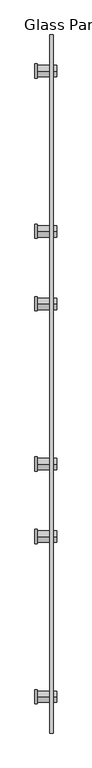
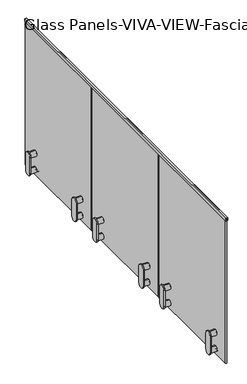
"""IFC4 building model written with IfcOpenShell, lengths in millimetres: railing geometry, Glass Panels-VIVA-VIEW-Fascia-Plate-Straight."""

from ifc_helpers import new_model, si_unit, point, frame, frame_2d, origin, place, context, project, spatial, polyline, circle_curve, trimmed, segment, composite_curve, outline, extrude, source, transform, mapped, element, save
from ifc_brep_helpers import plane_surface, cylinder_surface, advanced_brep


def glass_panels_viva_view_fascia_plate_straight_d094a03c(model_context):
    return source(origin(), model_context, "Body", "SolidModel", [
        extrude(outline(polyline([(1092.2, 20243.6596444), (1066.8, 20243.6596444), (1066.8, 20245.2471444), (1090.6125, 20245.2471444), (1090.6125, 20257.9471444), (1066.8, 20257.9471444), (1066.8, 20259.5346444), (1092.2, 20259.5346444), (1092.2, 20243.6596444)])), frame((0.0, -15505.1911701, 0.0), z_axis=(0.0, 1.0, 0.0), x_axis=(0.0, 0.0, 1.0)), (0.0, 0.0, 1.0), 3098.8),
        advanced_brep(
        [(20275.4093505, -13278.0747902, -254.0), (20275.4093505, -13278.0747902, -203.2), (20275.4093505, -13278.0747902, -228.6), (20257.9468505, -13278.0747902, -254.0), (20257.9468505, -13278.0747902, -203.2), (20257.9468505, -13278.0747902, -234.315), (20257.9468505, -13278.0747902, -222.885), (20245.2468505, -13278.0747902, -234.315), (20245.2468505, -13278.0747902, -222.885), (20245.2468505, -13278.0747902, -254.0), (20245.2468505, -13278.0747902, -203.2), (20188.0969975, -13278.0747902, -254.0), (20188.0969975, -13278.0747902, -203.2), (20188.0969975, -13278.0747902, -228.6)],
        [
            (0, 1, circle_curve(frame((20275.4093505, -13278.0747902, -228.6), z_axis=(1.0, 0.0, 0.0), x_axis=(0.0, 0.0, 1.0)), 25.4)),
            (1, 2),
            (2, 0),
            (1, 0, circle_curve(frame((20275.4093505, -13278.0747902, -228.6), z_axis=(1.0, 0.0, 0.0), x_axis=(0.0, 0.0, 1.0)), 25.4)),
            (3, 4, circle_curve(frame((20257.9468505, -13278.0747902, -228.6), z_axis=(1.0, 0.0, 0.0), x_axis=(0.0, 0.0, 1.0)), 25.4)),
            (4, 1),
            (0, 3),
            (4, 3, circle_curve(frame((20257.9468505, -13278.0747902, -228.6), z_axis=(1.0, 0.0, 0.0), x_axis=(0.0, 0.0, 1.0)), 25.4)),
            (5, 6, circle_curve(frame((20257.9468505, -13278.0747902, -228.6), z_axis=(1.0, 0.0, 0.0), x_axis=(0.0, 0.0, 1.0)), 5.715)),
            (6, 4),
            (3, 5),
            (6, 5, circle_curve(frame((20257.9468505, -13278.0747902, -228.6), z_axis=(1.0, 0.0, 0.0), x_axis=(0.0, 0.0, 1.0)), 5.715)),
            (7, 8, circle_curve(frame((20245.2468505, -13278.0747902, -228.6), z_axis=(1.0, 0.0, 0.0), x_axis=(0.0, 0.0, 1.0)), 5.715)),
            (8, 6),
            (5, 7),
            (8, 7, circle_curve(frame((20245.2468505, -13278.0747902, -228.6), z_axis=(1.0, 0.0, 0.0), x_axis=(0.0, 0.0, 1.0)), 5.715)),
            (9, 10, circle_curve(frame((20245.2468505, -13278.0747902, -228.6), z_axis=(1.0, 0.0, 0.0), x_axis=(0.0, 0.0, 1.0)), 25.4)),
            (10, 8),
            (7, 9),
            (10, 9, circle_curve(frame((20245.2468505, -13278.0747902, -228.6), z_axis=(1.0, 0.0, 0.0), x_axis=(0.0, 0.0, 1.0)), 25.4)),
            (11, 12, circle_curve(frame((20188.0969975, -13278.0747902, -228.6), z_axis=(1.0, 0.0, 0.0), x_axis=(0.0, 0.0, 1.0)), 25.4)),
            (12, 10),
            (9, 11),
            (12, 11, circle_curve(frame((20188.0969975, -13278.0747902, -228.6), z_axis=(1.0, 0.0, 0.0), x_axis=(0.0, 0.0, 1.0)), 25.4)),
            (13, 12),
            (11, 13),
        ],
        [
            plane_surface(frame((20275.4093505, -13278.0747902, -228.6), z_axis=(1.0, 0.0, 0.0), x_axis=(0.0, 0.0, 1.0))),
            cylinder_surface(frame((20343.6719975, -13278.0747902, -228.6), z_axis=(-1.0, 0.0, 0.0), x_axis=(0.0, 0.0, 1.0)), 25.4),
            plane_surface(frame((20257.9468505, -13278.0747902, -228.6), z_axis=(-1.0, 0.0, 0.0), x_axis=(0.0, 0.0, 1.0))),
            cylinder_surface(frame((20343.6719975, -13278.0747902, -228.6), z_axis=(-1.0, 0.0, 0.0), x_axis=(0.0, 0.0, 1.0)), 5.715),
            plane_surface(frame((20245.2468505, -13278.0747902, -228.6), z_axis=(1.0, 0.0, 0.0), x_axis=(0.0, 0.0, 1.0))),
            plane_surface(frame((20188.0969975, -13278.0747902, -228.6), z_axis=(-1.0, 0.0, 0.0), x_axis=(0.0, 0.0, 1.0))),
        ],
        [
            (0, [[1, 2, 3]]),
            (0, [[4, -3, -2]]),
            (1, [[5, 6, -1, 7]]),
            (1, [[8, -7, -4, -6]]),
            (2, [[9, 10, -5, 11]]),
            (2, [[12, -11, -8, -10]]),
            (3, [[13, 14, -9, 15]]),
            (3, [[16, -15, -12, -14]]),
            (4, [[17, 18, -13, 19]]),
            (4, [[20, -19, -16, -18]]),
            (1, [[21, 22, -17, 23]]),
            (1, [[24, -23, -20, -22]]),
            (5, [[25, -21, 26]]),
            (5, [[-26, -24, -25]]),
        ],
    ),
        advanced_brep(
        [(20257.9468505, -13278.0747902, -81.915), (20257.9468505, -13278.0747902, -70.485), (20257.9468505, -13278.0747902, -50.8), (20257.9468505, -13278.0747902, -101.6), (20245.2468505, -13278.0747902, -81.915), (20245.2468505, -13278.0747902, -70.485), (20245.2468505, -13278.0747902, -101.6), (20245.2468505, -13278.0747902, -50.8), (20188.0969975, -13278.0747902, -101.6), (20188.0969975, -13278.0747902, -50.8), (20188.0969975, -13278.0747902, -76.2), (20275.4093505, -13278.0747902, -101.6), (20275.4093505, -13278.0747902, -50.8), (20275.4093505, -13278.0747902, -76.2)],
        [
            (0, 1, circle_curve(frame((20257.9468505, -13278.0747902, -76.2), z_axis=(1.0, 0.0, 0.0), x_axis=(0.0, 0.0, 1.0)), 5.715)),
            (1, 2),
            (2, 3, circle_curve(frame((20257.9468505, -13278.0747902, -76.2), z_axis=(-1.0, 0.0, 0.0), x_axis=(0.0, 0.0, 1.0)), 25.4)),
            (3, 0),
            (1, 0, circle_curve(frame((20257.9468505, -13278.0747902, -76.2), z_axis=(1.0, 0.0, 0.0), x_axis=(0.0, 0.0, 1.0)), 5.715)),
            (3, 2, circle_curve(frame((20257.9468505, -13278.0747902, -76.2), z_axis=(-1.0, 0.0, 0.0), x_axis=(0.0, 0.0, 1.0)), 25.4)),
            (4, 5, circle_curve(frame((20245.2468505, -13278.0747902, -76.2), z_axis=(1.0, 0.0, 0.0), x_axis=(0.0, 0.0, 1.0)), 5.715)),
            (5, 1),
            (0, 4),
            (5, 4, circle_curve(frame((20245.2468505, -13278.0747902, -76.2), z_axis=(1.0, 0.0, 0.0), x_axis=(0.0, 0.0, 1.0)), 5.715)),
            (6, 7, circle_curve(frame((20245.2468505, -13278.0747902, -76.2), z_axis=(1.0, 0.0, 0.0), x_axis=(0.0, 0.0, 1.0)), 25.4)),
            (7, 5),
            (4, 6),
            (7, 6, circle_curve(frame((20245.2468505, -13278.0747902, -76.2), z_axis=(1.0, 0.0, 0.0), x_axis=(0.0, 0.0, 1.0)), 25.4)),
            (8, 9, circle_curve(frame((20188.0969975, -13278.0747902, -76.2), z_axis=(1.0, 0.0, 0.0), x_axis=(0.0, 0.0, 1.0)), 25.4)),
            (9, 7),
            (6, 8),
            (9, 8, circle_curve(frame((20188.0969975, -13278.0747902, -76.2), z_axis=(1.0, 0.0, 0.0), x_axis=(0.0, 0.0, 1.0)), 25.4)),
            (10, 9),
            (8, 10),
            (11, 12, circle_curve(frame((20275.4093505, -13278.0747902, -76.2), z_axis=(1.0, 0.0, 0.0), x_axis=(0.0, 0.0, 1.0)), 25.4)),
            (12, 13),
            (13, 11),
            (12, 11, circle_curve(frame((20275.4093505, -13278.0747902, -76.2), z_axis=(1.0, 0.0, 0.0), x_axis=(0.0, 0.0, 1.0)), 25.4)),
            (2, 12),
            (11, 3),
        ],
        [
            plane_surface(frame((20257.9468505, -13278.0747902, -76.2), z_axis=(-1.0, 0.0, 0.0), x_axis=(0.0, 0.0, 1.0))),
            cylinder_surface(frame((20343.6719975, -13278.0747902, -76.2), z_axis=(-1.0, 0.0, 0.0), x_axis=(0.0, 0.0, 1.0)), 5.715),
            plane_surface(frame((20245.2468505, -13278.0747902, -76.2), z_axis=(1.0, 0.0, 0.0), x_axis=(0.0, 0.0, 1.0))),
            cylinder_surface(frame((20343.6719975, -13278.0747902, -76.2), z_axis=(-1.0, 0.0, 0.0), x_axis=(0.0, 0.0, 1.0)), 25.4),
            plane_surface(frame((20188.0969975, -13278.0747902, -76.2), z_axis=(-1.0, 0.0, 0.0), x_axis=(0.0, 0.0, 1.0))),
            plane_surface(frame((20275.4093505, -13278.0747902, -76.2), z_axis=(1.0, 0.0, 0.0), x_axis=(0.0, 0.0, 1.0))),
        ],
        [
            (0, [[1, 2, 3, 4]]),
            (0, [[5, -4, 6, -2]]),
            (1, [[7, 8, -1, 9]]),
            (1, [[10, -9, -5, -8]]),
            (2, [[11, 12, -7, 13]]),
            (2, [[14, -13, -10, -12]]),
            (3, [[15, 16, -11, 17]]),
            (3, [[18, -17, -14, -16]]),
            (4, [[19, -15, 20]]),
            (4, [[-20, -18, -19]]),
            (5, [[21, 22, 23]]),
            (5, [[24, -23, -22]]),
            (3, [[-3, 25, -21, 26]]),
            (3, [[-6, -26, -24, -25]]),
        ],
    ),
        extrude(outline(composite_curve([segment(trimmed(circle_curve(frame_2d((-13278.0747902, -76.2)), 31.75), [point((-13309.8247902, -76.2))], [point((-13246.3247902, -76.2))], False, "CARTESIAN"), True, "CONTINUOUS"), segment(polyline([(-13246.3247902, -76.2), (-13246.3247902, -228.6)]), True, "CONTINUOUS"), segment(trimmed(circle_curve(frame_2d((-13278.0747902, -228.6)), 31.75), [point((-13246.3247902, -228.6))], [point((-13309.8247902, -228.6))], False, "CARTESIAN"), True, "CONTINUOUS"), segment(polyline([(-13309.8247902, -228.6), (-13309.8247902, -76.2)]), True, "CONTINUOUS")], self_intersect=False)), frame((20178.5719975, 0.0, 0.0), z_axis=(1.0, 0.0, 0.0), x_axis=(0.0, 1.0, 0.0)), (0.0, 0.0, 1.0), 9.525),
        advanced_brep(
        [(20275.4093505, -12566.8747902, -254.0), (20275.4093505, -12566.8747902, -203.2), (20275.4093505, -12566.8747902, -228.6), (20257.9468505, -12566.8747902, -254.0), (20257.9468505, -12566.8747902, -203.2), (20257.9468505, -12566.8747902, -234.315), (20257.9468505, -12566.8747902, -222.885), (20245.2468505, -12566.8747902, -234.315), (20245.2468505, -12566.8747902, -222.885), (20245.2468505, -12566.8747902, -254.0), (20245.2468505, -12566.8747902, -203.2), (20188.0969975, -12566.8747902, -254.0), (20188.0969975, -12566.8747902, -203.2), (20188.0969975, -12566.8747902, -228.6)],
        [
            (0, 1, circle_curve(frame((20275.4093505, -12566.8747902, -228.6), z_axis=(1.0, 0.0, 0.0), x_axis=(0.0, 0.0, 1.0)), 25.4)),
            (1, 2),
            (2, 0),
            (1, 0, circle_curve(frame((20275.4093505, -12566.8747902, -228.6), z_axis=(1.0, 0.0, 0.0), x_axis=(0.0, 0.0, 1.0)), 25.4)),
            (3, 4, circle_curve(frame((20257.9468505, -12566.8747902, -228.6), z_axis=(1.0, 0.0, 0.0), x_axis=(0.0, 0.0, 1.0)), 25.4)),
            (4, 1),
            (0, 3),
            (4, 3, circle_curve(frame((20257.9468505, -12566.8747902, -228.6), z_axis=(1.0, 0.0, 0.0), x_axis=(0.0, 0.0, 1.0)), 25.4)),
            (5, 6, circle_curve(frame((20257.9468505, -12566.8747902, -228.6), z_axis=(1.0, 0.0, 0.0), x_axis=(0.0, 0.0, 1.0)), 5.715)),
            (6, 4),
            (3, 5),
            (6, 5, circle_curve(frame((20257.9468505, -12566.8747902, -228.6), z_axis=(1.0, 0.0, 0.0), x_axis=(0.0, 0.0, 1.0)), 5.715)),
            (7, 8, circle_curve(frame((20245.2468505, -12566.8747902, -228.6), z_axis=(1.0, 0.0, 0.0), x_axis=(0.0, 0.0, 1.0)), 5.715)),
            (8, 6),
            (5, 7),
            (8, 7, circle_curve(frame((20245.2468505, -12566.8747902, -228.6), z_axis=(1.0, 0.0, 0.0), x_axis=(0.0, 0.0, 1.0)), 5.715)),
            (9, 10, circle_curve(frame((20245.2468505, -12566.8747902, -228.6), z_axis=(1.0, 0.0, 0.0), x_axis=(0.0, 0.0, 1.0)), 25.4)),
            (10, 8),
            (7, 9),
            (10, 9, circle_curve(frame((20245.2468505, -12566.8747902, -228.6), z_axis=(1.0, 0.0, 0.0), x_axis=(0.0, 0.0, 1.0)), 25.4)),
            (11, 12, circle_curve(frame((20188.0969975, -12566.8747902, -228.6), z_axis=(1.0, 0.0, 0.0), x_axis=(0.0, 0.0, 1.0)), 25.4)),
            (12, 10),
            (9, 11),
            (12, 11, circle_curve(frame((20188.0969975, -12566.8747902, -228.6), z_axis=(1.0, 0.0, 0.0), x_axis=(0.0, 0.0, 1.0)), 25.4)),
            (13, 12),
            (11, 13),
        ],
        [
            plane_surface(frame((20275.4093505, -12566.8747902, -228.6), z_axis=(1.0, 0.0, 0.0), x_axis=(0.0, 0.0, 1.0))),
            cylinder_surface(frame((20343.6719975, -12566.8747902, -228.6), z_axis=(-1.0, 0.0, 0.0), x_axis=(0.0, 0.0, 1.0)), 25.4),
            plane_surface(frame((20257.9468505, -12566.8747902, -228.6), z_axis=(-1.0, 0.0, 0.0), x_axis=(0.0, 0.0, 1.0))),
            cylinder_surface(frame((20343.6719975, -12566.8747902, -228.6), z_axis=(-1.0, 0.0, 0.0), x_axis=(0.0, 0.0, 1.0)), 5.715),
            plane_surface(frame((20245.2468505, -12566.8747902, -228.6), z_axis=(1.0, 0.0, 0.0), x_axis=(0.0, 0.0, 1.0))),
            plane_surface(frame((20188.0969975, -12566.8747902, -228.6), z_axis=(-1.0, 0.0, 0.0), x_axis=(0.0, 0.0, 1.0))),
        ],
        [
            (0, [[1, 2, 3]]),
            (0, [[4, -3, -2]]),
            (1, [[5, 6, -1, 7]]),
            (1, [[8, -7, -4, -6]]),
            (2, [[9, 10, -5, 11]]),
            (2, [[12, -11, -8, -10]]),
            (3, [[13, 14, -9, 15]]),
            (3, [[16, -15, -12, -14]]),
            (4, [[17, 18, -13, 19]]),
            (4, [[20, -19, -16, -18]]),
            (1, [[21, 22, -17, 23]]),
            (1, [[24, -23, -20, -22]]),
            (5, [[25, -21, 26]]),
            (5, [[-26, -24, -25]]),
        ],
    ),
        advanced_brep(
        [(20257.9468505, -12566.8747902, -81.915), (20257.9468505, -12566.8747902, -70.485), (20257.9468505, -12566.8747902, -50.8), (20257.9468505, -12566.8747902, -101.6), (20245.2468505, -12566.8747902, -81.915), (20245.2468505, -12566.8747902, -70.485), (20245.2468505, -12566.8747902, -101.6), (20245.2468505, -12566.8747902, -50.8), (20188.0969975, -12566.8747902, -101.6), (20188.0969975, -12566.8747902, -50.8), (20188.0969975, -12566.8747902, -76.2), (20275.4093505, -12566.8747902, -101.6), (20275.4093505, -12566.8747902, -50.8), (20275.4093505, -12566.8747902, -76.2)],
        [
            (0, 1, circle_curve(frame((20257.9468505, -12566.8747902, -76.2), z_axis=(1.0, 0.0, 0.0), x_axis=(0.0, 0.0, 1.0)), 5.715)),
            (1, 2),
            (2, 3, circle_curve(frame((20257.9468505, -12566.8747902, -76.2), z_axis=(-1.0, 0.0, 0.0), x_axis=(0.0, 0.0, 1.0)), 25.4)),
            (3, 0),
            (1, 0, circle_curve(frame((20257.9468505, -12566.8747902, -76.2), z_axis=(1.0, 0.0, 0.0), x_axis=(0.0, 0.0, 1.0)), 5.715)),
            (3, 2, circle_curve(frame((20257.9468505, -12566.8747902, -76.2), z_axis=(-1.0, 0.0, 0.0), x_axis=(0.0, 0.0, 1.0)), 25.4)),
            (4, 5, circle_curve(frame((20245.2468505, -12566.8747902, -76.2), z_axis=(1.0, 0.0, 0.0), x_axis=(0.0, 0.0, 1.0)), 5.715)),
            (5, 1),
            (0, 4),
            (5, 4, circle_curve(frame((20245.2468505, -12566.8747902, -76.2), z_axis=(1.0, 0.0, 0.0), x_axis=(0.0, 0.0, 1.0)), 5.715)),
            (6, 7, circle_curve(frame((20245.2468505, -12566.8747902, -76.2), z_axis=(1.0, 0.0, 0.0), x_axis=(0.0, 0.0, 1.0)), 25.4)),
            (7, 5),
            (4, 6),
            (7, 6, circle_curve(frame((20245.2468505, -12566.8747902, -76.2), z_axis=(1.0, 0.0, 0.0), x_axis=(0.0, 0.0, 1.0)), 25.4)),
            (8, 9, circle_curve(frame((20188.0969975, -12566.8747902, -76.2), z_axis=(1.0, 0.0, 0.0), x_axis=(0.0, 0.0, 1.0)), 25.4)),
            (9, 7),
            (6, 8),
            (9, 8, circle_curve(frame((20188.0969975, -12566.8747902, -76.2), z_axis=(1.0, 0.0, 0.0), x_axis=(0.0, 0.0, 1.0)), 25.4)),
            (10, 9),
            (8, 10),
            (11, 12, circle_curve(frame((20275.4093505, -12566.8747902, -76.2), z_axis=(1.0, 0.0, 0.0), x_axis=(0.0, 0.0, 1.0)), 25.4)),
            (12, 13),
            (13, 11),
            (12, 11, circle_curve(frame((20275.4093505, -12566.8747902, -76.2), z_axis=(1.0, 0.0, 0.0), x_axis=(0.0, 0.0, 1.0)), 25.4)),
            (2, 12),
            (11, 3),
        ],
        [
            plane_surface(frame((20257.9468505, -12566.8747902, -76.2), z_axis=(-1.0, 0.0, 0.0), x_axis=(0.0, 0.0, 1.0))),
            cylinder_surface(frame((20343.6719975, -12566.8747902, -76.2), z_axis=(-1.0, 0.0, 0.0), x_axis=(0.0, 0.0, 1.0)), 5.715),
            plane_surface(frame((20245.2468505, -12566.8747902, -76.2), z_axis=(1.0, 0.0, 0.0), x_axis=(0.0, 0.0, 1.0))),
            cylinder_surface(frame((20343.6719975, -12566.8747902, -76.2), z_axis=(-1.0, 0.0, 0.0), x_axis=(0.0, 0.0, 1.0)), 25.4),
            plane_surface(frame((20188.0969975, -12566.8747902, -76.2), z_axis=(-1.0, 0.0, 0.0), x_axis=(0.0, 0.0, 1.0))),
            plane_surface(frame((20275.4093505, -12566.8747902, -76.2), z_axis=(1.0, 0.0, 0.0), x_axis=(0.0, 0.0, 1.0))),
        ],
        [
            (0, [[1, 2, 3, 4]]),
            (0, [[5, -4, 6, -2]]),
            (1, [[7, 8, -1, 9]]),
            (1, [[10, -9, -5, -8]]),
            (2, [[11, 12, -7, 13]]),
            (2, [[14, -13, -10, -12]]),
            (3, [[15, 16, -11, 17]]),
            (3, [[18, -17, -14, -16]]),
            (4, [[19, -15, 20]]),
            (4, [[-20, -18, -19]]),
            (5, [[21, 22, 23]]),
            (5, [[24, -23, -22]]),
            (3, [[-3, 25, -21, 26]]),
            (3, [[-6, -26, -24, -25]]),
        ],
    ),
        extrude(outline(composite_curve([segment(trimmed(circle_curve(frame_2d((-12566.8747902, -76.2)), 31.75), [point((-12598.6247902, -76.2))], [point((-12535.1247902, -76.2))], False, "CARTESIAN"), True, "CONTINUOUS"), segment(polyline([(-12535.1247902, -76.2), (-12535.1247902, -228.6)]), True, "CONTINUOUS"), segment(trimmed(circle_curve(frame_2d((-12566.8747902, -228.6)), 31.75), [point((-12535.1247902, -228.6))], [point((-12598.6247902, -228.6))], False, "CARTESIAN"), True, "CONTINUOUS"), segment(polyline([(-12598.6247902, -228.6), (-12598.6247902, -76.2)]), True, "CONTINUOUS")], self_intersect=False)), frame((20178.5719975, 0.0, 0.0), z_axis=(1.0, 0.0, 0.0), x_axis=(0.0, 1.0, 0.0)), (0.0, 0.0, 1.0), 9.525),
        extrude(outline(polyline([(20245.2471444, -13430.4747902), (20245.2471444, -12414.4747902), (20257.9471444, -12414.4747902), (20257.9471444, -13430.4747902), (20245.2471444, -13430.4747902)])), frame((0.0, 0.0, -279.4), z_axis=(0.0, 0.0, 1.0), x_axis=(1.0, 0.0, 0.0)), (0.0, 0.0, 1.0), 1370.0125),
        advanced_brep(
        [(20275.4093505, -14311.0081235, -254.0), (20275.4093505, -14311.0081235, -203.2), (20275.4093505, -14311.0081235, -228.6), (20257.9468505, -14311.0081235, -254.0), (20257.9468505, -14311.0081235, -203.2), (20257.9468505, -14311.0081235, -234.315), (20257.9468505, -14311.0081235, -222.885), (20245.2468505, -14311.0081235, -234.315), (20245.2468505, -14311.0081235, -222.885), (20245.2468505, -14311.0081235, -254.0), (20245.2468505, -14311.0081235, -203.2), (20188.0969975, -14311.0081235, -254.0), (20188.0969975, -14311.0081235, -203.2), (20188.0969975, -14311.0081235, -228.6)],
        [
            (0, 1, circle_curve(frame((20275.4093505, -14311.0081235, -228.6), z_axis=(1.0, 0.0, 0.0), x_axis=(0.0, 0.0, 1.0)), 25.4)),
            (1, 2),
            (2, 0),
            (1, 0, circle_curve(frame((20275.4093505, -14311.0081235, -228.6), z_axis=(1.0, 0.0, 0.0), x_axis=(0.0, 0.0, 1.0)), 25.4)),
            (3, 4, circle_curve(frame((20257.9468505, -14311.0081235, -228.6), z_axis=(1.0, 0.0, 0.0), x_axis=(0.0, 0.0, 1.0)), 25.4)),
            (4, 1),
            (0, 3),
            (4, 3, circle_curve(frame((20257.9468505, -14311.0081235, -228.6), z_axis=(1.0, 0.0, 0.0), x_axis=(0.0, 0.0, 1.0)), 25.4)),
            (5, 6, circle_curve(frame((20257.9468505, -14311.0081235, -228.6), z_axis=(1.0, 0.0, 0.0), x_axis=(0.0, 0.0, 1.0)), 5.715)),
            (6, 4),
            (3, 5),
            (6, 5, circle_curve(frame((20257.9468505, -14311.0081235, -228.6), z_axis=(1.0, 0.0, 0.0), x_axis=(0.0, 0.0, 1.0)), 5.715)),
            (7, 8, circle_curve(frame((20245.2468505, -14311.0081235, -228.6), z_axis=(1.0, 0.0, 0.0), x_axis=(0.0, 0.0, 1.0)), 5.715)),
            (8, 6),
            (5, 7),
            (8, 7, circle_curve(frame((20245.2468505, -14311.0081235, -228.6), z_axis=(1.0, 0.0, 0.0), x_axis=(0.0, 0.0, 1.0)), 5.715)),
            (9, 10, circle_curve(frame((20245.2468505, -14311.0081235, -228.6), z_axis=(1.0, 0.0, 0.0), x_axis=(0.0, 0.0, 1.0)), 25.4)),
            (10, 8),
            (7, 9),
            (10, 9, circle_curve(frame((20245.2468505, -14311.0081235, -228.6), z_axis=(1.0, 0.0, 0.0), x_axis=(0.0, 0.0, 1.0)), 25.4)),
            (11, 12, circle_curve(frame((20188.0969975, -14311.0081235, -228.6), z_axis=(1.0, 0.0, 0.0), x_axis=(0.0, 0.0, 1.0)), 25.4)),
            (12, 10),
            (9, 11),
            (12, 11, circle_curve(frame((20188.0969975, -14311.0081235, -228.6), z_axis=(1.0, 0.0, 0.0), x_axis=(0.0, 0.0, 1.0)), 25.4)),
            (13, 12),
            (11, 13),
        ],
        [
            plane_surface(frame((20275.4093505, -14311.0081235, -228.6), z_axis=(1.0, 0.0, 0.0), x_axis=(0.0, 0.0, 1.0))),
            cylinder_surface(frame((20343.6719975, -14311.0081235, -228.6), z_axis=(-1.0, 0.0, 0.0), x_axis=(0.0, 0.0, 1.0)), 25.4),
            plane_surface(frame((20257.9468505, -14311.0081235, -228.6), z_axis=(-1.0, 0.0, 0.0), x_axis=(0.0, 0.0, 1.0))),
            cylinder_surface(frame((20343.6719975, -14311.0081235, -228.6), z_axis=(-1.0, 0.0, 0.0), x_axis=(0.0, 0.0, 1.0)), 5.715),
            plane_surface(frame((20245.2468505, -14311.0081235, -228.6), z_axis=(1.0, 0.0, 0.0), x_axis=(0.0, 0.0, 1.0))),
            plane_surface(frame((20188.0969975, -14311.0081235, -228.6), z_axis=(-1.0, 0.0, 0.0), x_axis=(0.0, 0.0, 1.0))),
        ],
        [
            (0, [[1, 2, 3]]),
            (0, [[4, -3, -2]]),
            (1, [[5, 6, -1, 7]]),
            (1, [[8, -7, -4, -6]]),
            (2, [[9, 10, -5, 11]]),
            (2, [[12, -11, -8, -10]]),
            (3, [[13, 14, -9, 15]]),
            (3, [[16, -15, -12, -14]]),
            (4, [[17, 18, -13, 19]]),
            (4, [[20, -19, -16, -18]]),
            (1, [[21, 22, -17, 23]]),
            (1, [[24, -23, -20, -22]]),
            (5, [[25, -21, 26]]),
            (5, [[-26, -24, -25]]),
        ],
    ),
        advanced_brep(
        [(20257.9468505, -14311.0081235, -81.915), (20257.9468505, -14311.0081235, -70.485), (20257.9468505, -14311.0081235, -50.8), (20257.9468505, -14311.0081235, -101.6), (20245.2468505, -14311.0081235, -81.915), (20245.2468505, -14311.0081235, -70.485), (20245.2468505, -14311.0081235, -101.6), (20245.2468505, -14311.0081235, -50.8), (20188.0969975, -14311.0081235, -101.6), (20188.0969975, -14311.0081235, -50.8), (20188.0969975, -14311.0081235, -76.2), (20275.4093505, -14311.0081235, -101.6), (20275.4093505, -14311.0081235, -50.8), (20275.4093505, -14311.0081235, -76.2)],
        [
            (0, 1, circle_curve(frame((20257.9468505, -14311.0081235, -76.2), z_axis=(1.0, 0.0, 0.0), x_axis=(0.0, 0.0, 1.0)), 5.715)),
            (1, 2),
            (2, 3, circle_curve(frame((20257.9468505, -14311.0081235, -76.2), z_axis=(-1.0, 0.0, 0.0), x_axis=(0.0, 0.0, 1.0)), 25.4)),
            (3, 0),
            (1, 0, circle_curve(frame((20257.9468505, -14311.0081235, -76.2), z_axis=(1.0, 0.0, 0.0), x_axis=(0.0, 0.0, 1.0)), 5.715)),
            (3, 2, circle_curve(frame((20257.9468505, -14311.0081235, -76.2), z_axis=(-1.0, 0.0, 0.0), x_axis=(0.0, 0.0, 1.0)), 25.4)),
            (4, 5, circle_curve(frame((20245.2468505, -14311.0081235, -76.2), z_axis=(1.0, 0.0, 0.0), x_axis=(0.0, 0.0, 1.0)), 5.715)),
            (5, 1),
            (0, 4),
            (5, 4, circle_curve(frame((20245.2468505, -14311.0081235, -76.2), z_axis=(1.0, 0.0, 0.0), x_axis=(0.0, 0.0, 1.0)), 5.715)),
            (6, 7, circle_curve(frame((20245.2468505, -14311.0081235, -76.2), z_axis=(1.0, 0.0, 0.0), x_axis=(0.0, 0.0, 1.0)), 25.4)),
            (7, 5),
            (4, 6),
            (7, 6, circle_curve(frame((20245.2468505, -14311.0081235, -76.2), z_axis=(1.0, 0.0, 0.0), x_axis=(0.0, 0.0, 1.0)), 25.4)),
            (8, 9, circle_curve(frame((20188.0969975, -14311.0081235, -76.2), z_axis=(1.0, 0.0, 0.0), x_axis=(0.0, 0.0, 1.0)), 25.4)),
            (9, 7),
            (6, 8),
            (9, 8, circle_curve(frame((20188.0969975, -14311.0081235, -76.2), z_axis=(1.0, 0.0, 0.0), x_axis=(0.0, 0.0, 1.0)), 25.4)),
            (10, 9),
            (8, 10),
            (11, 12, circle_curve(frame((20275.4093505, -14311.0081235, -76.2), z_axis=(1.0, 0.0, 0.0), x_axis=(0.0, 0.0, 1.0)), 25.4)),
            (12, 13),
            (13, 11),
            (12, 11, circle_curve(frame((20275.4093505, -14311.0081235, -76.2), z_axis=(1.0, 0.0, 0.0), x_axis=(0.0, 0.0, 1.0)), 25.4)),
            (2, 12),
            (11, 3),
        ],
        [
            plane_surface(frame((20257.9468505, -14311.0081235, -76.2), z_axis=(-1.0, 0.0, 0.0), x_axis=(0.0, 0.0, 1.0))),
            cylinder_surface(frame((20343.6719975, -14311.0081235, -76.2), z_axis=(-1.0, 0.0, 0.0), x_axis=(0.0, 0.0, 1.0)), 5.715),
            plane_surface(frame((20245.2468505, -14311.0081235, -76.2), z_axis=(1.0, 0.0, 0.0), x_axis=(0.0, 0.0, 1.0))),
            cylinder_surface(frame((20343.6719975, -14311.0081235, -76.2), z_axis=(-1.0, 0.0, 0.0), x_axis=(0.0, 0.0, 1.0)), 25.4),
            plane_surface(frame((20188.0969975, -14311.0081235, -76.2), z_axis=(-1.0, 0.0, 0.0), x_axis=(0.0, 0.0, 1.0))),
            plane_surface(frame((20275.4093505, -14311.0081235, -76.2), z_axis=(1.0, 0.0, 0.0), x_axis=(0.0, 0.0, 1.0))),
        ],
        [
            (0, [[1, 2, 3, 4]]),
            (0, [[5, -4, 6, -2]]),
            (1, [[7, 8, -1, 9]]),
            (1, [[10, -9, -5, -8]]),
            (2, [[11, 12, -7, 13]]),
            (2, [[14, -13, -10, -12]]),
            (3, [[15, 16, -11, 17]]),
            (3, [[18, -17, -14, -16]]),
            (4, [[19, -15, 20]]),
            (4, [[-20, -18, -19]]),
            (5, [[21, 22, 23]]),
            (5, [[24, -23, -22]]),
            (3, [[-3, 25, -21, 26]]),
            (3, [[-6, -26, -24, -25]]),
        ],
    ),
        extrude(outline(composite_curve([segment(trimmed(circle_curve(frame_2d((-14311.0081235, -76.2)), 31.75), [point((-14342.7581235, -76.2))], [point((-14279.2581235, -76.2))], False, "CARTESIAN"), True, "CONTINUOUS"), segment(polyline([(-14279.2581235, -76.2), (-14279.2581235, -228.6)]), True, "CONTINUOUS"), segment(trimmed(circle_curve(frame_2d((-14311.0081235, -228.6)), 31.75), [point((-14279.2581235, -228.6))], [point((-14342.7581235, -228.6))], False, "CARTESIAN"), True, "CONTINUOUS"), segment(polyline([(-14342.7581235, -228.6), (-14342.7581235, -76.2)]), True, "CONTINUOUS")], self_intersect=False)), frame((20178.5719975, 0.0, 0.0), z_axis=(1.0, 0.0, 0.0), x_axis=(0.0, 1.0, 0.0)), (0.0, 0.0, 1.0), 9.525),
        advanced_brep(
        [(20275.4093505, -13599.8081235, -254.0), (20275.4093505, -13599.8081235, -203.2), (20275.4093505, -13599.8081235, -228.6), (20257.9468505, -13599.8081235, -254.0), (20257.9468505, -13599.8081235, -203.2), (20257.9468505, -13599.8081235, -234.315), (20257.9468505, -13599.8081235, -222.885), (20245.2468505, -13599.8081235, -234.315), (20245.2468505, -13599.8081235, -222.885), (20245.2468505, -13599.8081235, -254.0), (20245.2468505, -13599.8081235, -203.2), (20188.0969975, -13599.8081235, -254.0), (20188.0969975, -13599.8081235, -203.2), (20188.0969975, -13599.8081235, -228.6)],
        [
            (0, 1, circle_curve(frame((20275.4093505, -13599.8081235, -228.6), z_axis=(1.0, 0.0, 0.0), x_axis=(0.0, 0.0, 1.0)), 25.4)),
            (1, 2),
            (2, 0),
            (1, 0, circle_curve(frame((20275.4093505, -13599.8081235, -228.6), z_axis=(1.0, 0.0, 0.0), x_axis=(0.0, 0.0, 1.0)), 25.4)),
            (3, 4, circle_curve(frame((20257.9468505, -13599.8081235, -228.6), z_axis=(1.0, 0.0, 0.0), x_axis=(0.0, 0.0, 1.0)), 25.4)),
            (4, 1),
            (0, 3),
            (4, 3, circle_curve(frame((20257.9468505, -13599.8081235, -228.6), z_axis=(1.0, 0.0, 0.0), x_axis=(0.0, 0.0, 1.0)), 25.4)),
            (5, 6, circle_curve(frame((20257.9468505, -13599.8081235, -228.6), z_axis=(1.0, 0.0, 0.0), x_axis=(0.0, 0.0, 1.0)), 5.715)),
            (6, 4),
            (3, 5),
            (6, 5, circle_curve(frame((20257.9468505, -13599.8081235, -228.6), z_axis=(1.0, 0.0, 0.0), x_axis=(0.0, 0.0, 1.0)), 5.715)),
            (7, 8, circle_curve(frame((20245.2468505, -13599.8081235, -228.6), z_axis=(1.0, 0.0, 0.0), x_axis=(0.0, 0.0, 1.0)), 5.715)),
            (8, 6),
            (5, 7),
            (8, 7, circle_curve(frame((20245.2468505, -13599.8081235, -228.6), z_axis=(1.0, 0.0, 0.0), x_axis=(0.0, 0.0, 1.0)), 5.715)),
            (9, 10, circle_curve(frame((20245.2468505, -13599.8081235, -228.6), z_axis=(1.0, 0.0, 0.0), x_axis=(0.0, 0.0, 1.0)), 25.4)),
            (10, 8),
            (7, 9),
            (10, 9, circle_curve(frame((20245.2468505, -13599.8081235, -228.6), z_axis=(1.0, 0.0, 0.0), x_axis=(0.0, 0.0, 1.0)), 25.4)),
            (11, 12, circle_curve(frame((20188.0969975, -13599.8081235, -228.6), z_axis=(1.0, 0.0, 0.0), x_axis=(0.0, 0.0, 1.0)), 25.4)),
            (12, 10),
            (9, 11),
            (12, 11, circle_curve(frame((20188.0969975, -13599.8081235, -228.6), z_axis=(1.0, 0.0, 0.0), x_axis=(0.0, 0.0, 1.0)), 25.4)),
            (13, 12),
            (11, 13),
        ],
        [
            plane_surface(frame((20275.4093505, -13599.8081235, -228.6), z_axis=(1.0, 0.0, 0.0), x_axis=(0.0, 0.0, 1.0))),
            cylinder_surface(frame((20343.6719975, -13599.8081235, -228.6), z_axis=(-1.0, 0.0, 0.0), x_axis=(0.0, 0.0, 1.0)), 25.4),
            plane_surface(frame((20257.9468505, -13599.8081235, -228.6), z_axis=(-1.0, 0.0, 0.0), x_axis=(0.0, 0.0, 1.0))),
            cylinder_surface(frame((20343.6719975, -13599.8081235, -228.6), z_axis=(-1.0, 0.0, 0.0), x_axis=(0.0, 0.0, 1.0)), 5.715),
            plane_surface(frame((20245.2468505, -13599.8081235, -228.6), z_axis=(1.0, 0.0, 0.0), x_axis=(0.0, 0.0, 1.0))),
            plane_surface(frame((20188.0969975, -13599.8081235, -228.6), z_axis=(-1.0, 0.0, 0.0), x_axis=(0.0, 0.0, 1.0))),
        ],
        [
            (0, [[1, 2, 3]]),
            (0, [[4, -3, -2]]),
            (1, [[5, 6, -1, 7]]),
            (1, [[8, -7, -4, -6]]),
            (2, [[9, 10, -5, 11]]),
            (2, [[12, -11, -8, -10]]),
            (3, [[13, 14, -9, 15]]),
            (3, [[16, -15, -12, -14]]),
            (4, [[17, 18, -13, 19]]),
            (4, [[20, -19, -16, -18]]),
            (1, [[21, 22, -17, 23]]),
            (1, [[24, -23, -20, -22]]),
            (5, [[25, -21, 26]]),
            (5, [[-26, -24, -25]]),
        ],
    ),
        advanced_brep(
        [(20257.9468505, -13599.8081235, -81.915), (20257.9468505, -13599.8081235, -70.485), (20257.9468505, -13599.8081235, -50.8), (20257.9468505, -13599.8081235, -101.6), (20245.2468505, -13599.8081235, -81.915), (20245.2468505, -13599.8081235, -70.485), (20245.2468505, -13599.8081235, -101.6), (20245.2468505, -13599.8081235, -50.8), (20188.0969975, -13599.8081235, -101.6), (20188.0969975, -13599.8081235, -50.8), (20188.0969975, -13599.8081235, -76.2), (20275.4093505, -13599.8081235, -101.6), (20275.4093505, -13599.8081235, -50.8), (20275.4093505, -13599.8081235, -76.2)],
        [
            (0, 1, circle_curve(frame((20257.9468505, -13599.8081235, -76.2), z_axis=(1.0, 0.0, 0.0), x_axis=(0.0, 0.0, 1.0)), 5.715)),
            (1, 2),
            (2, 3, circle_curve(frame((20257.9468505, -13599.8081235, -76.2), z_axis=(-1.0, 0.0, 0.0), x_axis=(0.0, 0.0, 1.0)), 25.4)),
            (3, 0),
            (1, 0, circle_curve(frame((20257.9468505, -13599.8081235, -76.2), z_axis=(1.0, 0.0, 0.0), x_axis=(0.0, 0.0, 1.0)), 5.715)),
            (3, 2, circle_curve(frame((20257.9468505, -13599.8081235, -76.2), z_axis=(-1.0, 0.0, 0.0), x_axis=(0.0, 0.0, 1.0)), 25.4)),
            (4, 5, circle_curve(frame((20245.2468505, -13599.8081235, -76.2), z_axis=(1.0, 0.0, 0.0), x_axis=(0.0, 0.0, 1.0)), 5.715)),
            (5, 1),
            (0, 4),
            (5, 4, circle_curve(frame((20245.2468505, -13599.8081235, -76.2), z_axis=(1.0, 0.0, 0.0), x_axis=(0.0, 0.0, 1.0)), 5.715)),
            (6, 7, circle_curve(frame((20245.2468505, -13599.8081235, -76.2), z_axis=(1.0, 0.0, 0.0), x_axis=(0.0, 0.0, 1.0)), 25.4)),
            (7, 5),
            (4, 6),
            (7, 6, circle_curve(frame((20245.2468505, -13599.8081235, -76.2), z_axis=(1.0, 0.0, 0.0), x_axis=(0.0, 0.0, 1.0)), 25.4)),
            (8, 9, circle_curve(frame((20188.0969975, -13599.8081235, -76.2), z_axis=(1.0, 0.0, 0.0), x_axis=(0.0, 0.0, 1.0)), 25.4)),
            (9, 7),
            (6, 8),
            (9, 8, circle_curve(frame((20188.0969975, -13599.8081235, -76.2), z_axis=(1.0, 0.0, 0.0), x_axis=(0.0, 0.0, 1.0)), 25.4)),
            (10, 9),
            (8, 10),
            (11, 12, circle_curve(frame((20275.4093505, -13599.8081235, -76.2), z_axis=(1.0, 0.0, 0.0), x_axis=(0.0, 0.0, 1.0)), 25.4)),
            (12, 13),
            (13, 11),
            (12, 11, circle_curve(frame((20275.4093505, -13599.8081235, -76.2), z_axis=(1.0, 0.0, 0.0), x_axis=(0.0, 0.0, 1.0)), 25.4)),
            (2, 12),
            (11, 3),
        ],
        [
            plane_surface(frame((20257.9468505, -13599.8081235, -76.2), z_axis=(-1.0, 0.0, 0.0), x_axis=(0.0, 0.0, 1.0))),
            cylinder_surface(frame((20343.6719975, -13599.8081235, -76.2), z_axis=(-1.0, 0.0, 0.0), x_axis=(0.0, 0.0, 1.0)), 5.715),
            plane_surface(frame((20245.2468505, -13599.8081235, -76.2), z_axis=(1.0, 0.0, 0.0), x_axis=(0.0, 0.0, 1.0))),
            cylinder_surface(frame((20343.6719975, -13599.8081235, -76.2), z_axis=(-1.0, 0.0, 0.0), x_axis=(0.0, 0.0, 1.0)), 25.4),
            plane_surface(frame((20188.0969975, -13599.8081235, -76.2), z_axis=(-1.0, 0.0, 0.0), x_axis=(0.0, 0.0, 1.0))),
            plane_surface(frame((20275.4093505, -13599.8081235, -76.2), z_axis=(1.0, 0.0, 0.0), x_axis=(0.0, 0.0, 1.0))),
        ],
        [
            (0, [[1, 2, 3, 4]]),
            (0, [[5, -4, 6, -2]]),
            (1, [[7, 8, -1, 9]]),
            (1, [[10, -9, -5, -8]]),
            (2, [[11, 12, -7, 13]]),
            (2, [[14, -13, -10, -12]]),
            (3, [[15, 16, -11, 17]]),
            (3, [[18, -17, -14, -16]]),
            (4, [[19, -15, 20]]),
            (4, [[-20, -18, -19]]),
            (5, [[21, 22, 23]]),
            (5, [[24, -23, -22]]),
            (3, [[-3, 25, -21, 26]]),
            (3, [[-6, -26, -24, -25]]),
        ],
    ),
        extrude(outline(composite_curve([segment(trimmed(circle_curve(frame_2d((-13599.8081235, -76.2)), 31.75), [point((-13631.5581235, -76.2))], [point((-13568.0581235, -76.2))], False, "CARTESIAN"), True, "CONTINUOUS"), segment(polyline([(-13568.0581235, -76.2), (-13568.0581235, -228.6)]), True, "CONTINUOUS"), segment(trimmed(circle_curve(frame_2d((-13599.8081235, -228.6)), 31.75), [point((-13568.0581235, -228.6))], [point((-13631.5581235, -228.6))], False, "CARTESIAN"), True, "CONTINUOUS"), segment(polyline([(-13631.5581235, -228.6), (-13631.5581235, -76.2)]), True, "CONTINUOUS")], self_intersect=False)), frame((20178.5719975, 0.0, 0.0), z_axis=(1.0, 0.0, 0.0), x_axis=(0.0, 1.0, 0.0)), (0.0, 0.0, 1.0), 9.525),
        extrude(outline(polyline([(20245.2471444, -14463.4081235), (20245.2471444, -13447.4081235), (20257.9471444, -13447.4081235), (20257.9471444, -14463.4081235), (20245.2471444, -14463.4081235)])), frame((0.0, 0.0, -279.4), z_axis=(0.0, 0.0, 1.0), x_axis=(1.0, 0.0, 0.0)), (0.0, 0.0, 1.0), 1370.0125),
        advanced_brep(
        [(20275.4093505, -15343.9414569, -254.0), (20275.4093505, -15343.9414569, -203.2), (20275.4093505, -15343.9414569, -228.6), (20257.9468505, -15343.9414569, -254.0), (20257.9468505, -15343.9414569, -203.2), (20257.9468505, -15343.9414569, -234.315), (20257.9468505, -15343.9414569, -222.885), (20245.2468505, -15343.9414569, -234.315), (20245.2468505, -15343.9414569, -222.885), (20245.2468505, -15343.9414569, -254.0), (20245.2468505, -15343.9414569, -203.2), (20188.0969975, -15343.9414569, -254.0), (20188.0969975, -15343.9414569, -203.2), (20188.0969975, -15343.9414569, -228.6)],
        [
            (0, 1, circle_curve(frame((20275.4093505, -15343.9414569, -228.6), z_axis=(1.0, 0.0, 0.0), x_axis=(0.0, 0.0, 1.0)), 25.4)),
            (1, 2),
            (2, 0),
            (1, 0, circle_curve(frame((20275.4093505, -15343.9414569, -228.6), z_axis=(1.0, 0.0, 0.0), x_axis=(0.0, 0.0, 1.0)), 25.4)),
            (3, 4, circle_curve(frame((20257.9468505, -15343.9414569, -228.6), z_axis=(1.0, 0.0, 0.0), x_axis=(0.0, 0.0, 1.0)), 25.4)),
            (4, 1),
            (0, 3),
            (4, 3, circle_curve(frame((20257.9468505, -15343.9414569, -228.6), z_axis=(1.0, 0.0, 0.0), x_axis=(0.0, 0.0, 1.0)), 25.4)),
            (5, 6, circle_curve(frame((20257.9468505, -15343.9414569, -228.6), z_axis=(1.0, 0.0, 0.0), x_axis=(0.0, 0.0, 1.0)), 5.715)),
            (6, 4),
            (3, 5),
            (6, 5, circle_curve(frame((20257.9468505, -15343.9414569, -228.6), z_axis=(1.0, 0.0, 0.0), x_axis=(0.0, 0.0, 1.0)), 5.715)),
            (7, 8, circle_curve(frame((20245.2468505, -15343.9414569, -228.6), z_axis=(1.0, 0.0, 0.0), x_axis=(0.0, 0.0, 1.0)), 5.715)),
            (8, 6),
            (5, 7),
            (8, 7, circle_curve(frame((20245.2468505, -15343.9414569, -228.6), z_axis=(1.0, 0.0, 0.0), x_axis=(0.0, 0.0, 1.0)), 5.715)),
            (9, 10, circle_curve(frame((20245.2468505, -15343.9414569, -228.6), z_axis=(1.0, 0.0, 0.0), x_axis=(0.0, 0.0, 1.0)), 25.4)),
            (10, 8),
            (7, 9),
            (10, 9, circle_curve(frame((20245.2468505, -15343.9414569, -228.6), z_axis=(1.0, 0.0, 0.0), x_axis=(0.0, 0.0, 1.0)), 25.4)),
            (11, 12, circle_curve(frame((20188.0969975, -15343.9414569, -228.6), z_axis=(1.0, 0.0, 0.0), x_axis=(0.0, 0.0, 1.0)), 25.4)),
            (12, 10),
            (9, 11),
            (12, 11, circle_curve(frame((20188.0969975, -15343.9414569, -228.6), z_axis=(1.0, 0.0, 0.0), x_axis=(0.0, 0.0, 1.0)), 25.4)),
            (13, 12),
            (11, 13),
        ],
        [
            plane_surface(frame((20275.4093505, -15343.9414569, -228.6), z_axis=(1.0, 0.0, 0.0), x_axis=(0.0, 0.0, 1.0))),
            cylinder_surface(frame((20343.6719975, -15343.9414569, -228.6), z_axis=(-1.0, 0.0, 0.0), x_axis=(0.0, 0.0, 1.0)), 25.4),
            plane_surface(frame((20257.9468505, -15343.9414569, -228.6), z_axis=(-1.0, 0.0, 0.0), x_axis=(0.0, 0.0, 1.0))),
            cylinder_surface(frame((20343.6719975, -15343.9414569, -228.6), z_axis=(-1.0, 0.0, 0.0), x_axis=(0.0, 0.0, 1.0)), 5.715),
            plane_surface(frame((20245.2468505, -15343.9414569, -228.6), z_axis=(1.0, 0.0, 0.0), x_axis=(0.0, 0.0, 1.0))),
            plane_surface(frame((20188.0969975, -15343.9414569, -228.6), z_axis=(-1.0, 0.0, 0.0), x_axis=(0.0, 0.0, 1.0))),
        ],
        [
            (0, [[1, 2, 3]]),
            (0, [[4, -3, -2]]),
            (1, [[5, 6, -1, 7]]),
            (1, [[8, -7, -4, -6]]),
            (2, [[9, 10, -5, 11]]),
            (2, [[12, -11, -8, -10]]),
            (3, [[13, 14, -9, 15]]),
            (3, [[16, -15, -12, -14]]),
            (4, [[17, 18, -13, 19]]),
            (4, [[20, -19, -16, -18]]),
            (1, [[21, 22, -17, 23]]),
            (1, [[24, -23, -20, -22]]),
            (5, [[25, -21, 26]]),
            (5, [[-26, -24, -25]]),
        ],
    ),
        advanced_brep(
        [(20257.9468505, -15343.9414569, -81.915), (20257.9468505, -15343.9414569, -70.485), (20257.9468505, -15343.9414569, -50.8), (20257.9468505, -15343.9414569, -101.6), (20245.2468505, -15343.9414569, -81.915), (20245.2468505, -15343.9414569, -70.485), (20245.2468505, -15343.9414569, -101.6), (20245.2468505, -15343.9414569, -50.8), (20188.0969975, -15343.9414569, -101.6), (20188.0969975, -15343.9414569, -50.8), (20188.0969975, -15343.9414569, -76.2), (20275.4093505, -15343.9414569, -101.6), (20275.4093505, -15343.9414569, -50.8), (20275.4093505, -15343.9414569, -76.2)],
        [
            (0, 1, circle_curve(frame((20257.9468505, -15343.9414569, -76.2), z_axis=(1.0, 0.0, 0.0), x_axis=(0.0, 0.0, 1.0)), 5.715)),
            (1, 2),
            (2, 3, circle_curve(frame((20257.9468505, -15343.9414569, -76.2), z_axis=(-1.0, 0.0, 0.0), x_axis=(0.0, 0.0, 1.0)), 25.4)),
            (3, 0),
            (1, 0, circle_curve(frame((20257.9468505, -15343.9414569, -76.2), z_axis=(1.0, 0.0, 0.0), x_axis=(0.0, 0.0, 1.0)), 5.715)),
            (3, 2, circle_curve(frame((20257.9468505, -15343.9414569, -76.2), z_axis=(-1.0, 0.0, 0.0), x_axis=(0.0, 0.0, 1.0)), 25.4)),
            (4, 5, circle_curve(frame((20245.2468505, -15343.9414569, -76.2), z_axis=(1.0, 0.0, 0.0), x_axis=(0.0, 0.0, 1.0)), 5.715)),
            (5, 1),
            (0, 4),
            (5, 4, circle_curve(frame((20245.2468505, -15343.9414569, -76.2), z_axis=(1.0, 0.0, 0.0), x_axis=(0.0, 0.0, 1.0)), 5.715)),
            (6, 7, circle_curve(frame((20245.2468505, -15343.9414569, -76.2), z_axis=(1.0, 0.0, 0.0), x_axis=(0.0, 0.0, 1.0)), 25.4)),
            (7, 5),
            (4, 6),
            (7, 6, circle_curve(frame((20245.2468505, -15343.9414569, -76.2), z_axis=(1.0, 0.0, 0.0), x_axis=(0.0, 0.0, 1.0)), 25.4)),
            (8, 9, circle_curve(frame((20188.0969975, -15343.9414569, -76.2), z_axis=(1.0, 0.0, 0.0), x_axis=(0.0, 0.0, 1.0)), 25.4)),
            (9, 7),
            (6, 8),
            (9, 8, circle_curve(frame((20188.0969975, -15343.9414569, -76.2), z_axis=(1.0, 0.0, 0.0), x_axis=(0.0, 0.0, 1.0)), 25.4)),
            (10, 9),
            (8, 10),
            (11, 12, circle_curve(frame((20275.4093505, -15343.9414569, -76.2), z_axis=(1.0, 0.0, 0.0), x_axis=(0.0, 0.0, 1.0)), 25.4)),
            (12, 13),
            (13, 11),
            (12, 11, circle_curve(frame((20275.4093505, -15343.9414569, -76.2), z_axis=(1.0, 0.0, 0.0), x_axis=(0.0, 0.0, 1.0)), 25.4)),
            (2, 12),
            (11, 3),
        ],
        [
            plane_surface(frame((20257.9468505, -15343.9414569, -76.2), z_axis=(-1.0, 0.0, 0.0), x_axis=(0.0, 0.0, 1.0))),
            cylinder_surface(frame((20343.6719975, -15343.9414569, -76.2), z_axis=(-1.0, 0.0, 0.0), x_axis=(0.0, 0.0, 1.0)), 5.715),
            plane_surface(frame((20245.2468505, -15343.9414569, -76.2), z_axis=(1.0, 0.0, 0.0), x_axis=(0.0, 0.0, 1.0))),
            cylinder_surface(frame((20343.6719975, -15343.9414569, -76.2), z_axis=(-1.0, 0.0, 0.0), x_axis=(0.0, 0.0, 1.0)), 25.4),
            plane_surface(frame((20188.0969975, -15343.9414569, -76.2), z_axis=(-1.0, 0.0, 0.0), x_axis=(0.0, 0.0, 1.0))),
            plane_surface(frame((20275.4093505, -15343.9414569, -76.2), z_axis=(1.0, 0.0, 0.0), x_axis=(0.0, 0.0, 1.0))),
        ],
        [
            (0, [[1, 2, 3, 4]]),
            (0, [[5, -4, 6, -2]]),
            (1, [[7, 8, -1, 9]]),
            (1, [[10, -9, -5, -8]]),
            (2, [[11, 12, -7, 13]]),
            (2, [[14, -13, -10, -12]]),
            (3, [[15, 16, -11, 17]]),
            (3, [[18, -17, -14, -16]]),
            (4, [[19, -15, 20]]),
            (4, [[-20, -18, -19]]),
            (5, [[21, 22, 23]]),
            (5, [[24, -23, -22]]),
            (3, [[-3, 25, -21, 26]]),
            (3, [[-6, -26, -24, -25]]),
        ],
    ),
        extrude(outline(composite_curve([segment(trimmed(circle_curve(frame_2d((-15343.9414569, -76.2)), 31.75), [point((-15375.6914569, -76.2))], [point((-15312.1914569, -76.2))], False, "CARTESIAN"), True, "CONTINUOUS"), segment(polyline([(-15312.1914569, -76.2), (-15312.1914569, -228.6)]), True, "CONTINUOUS"), segment(trimmed(circle_curve(frame_2d((-15343.9414569, -228.6)), 31.75), [point((-15312.1914569, -228.6))], [point((-15375.6914569, -228.6))], False, "CARTESIAN"), True, "CONTINUOUS"), segment(polyline([(-15375.6914569, -228.6), (-15375.6914569, -76.2)]), True, "CONTINUOUS")], self_intersect=False)), frame((20178.5719975, 0.0, 0.0), z_axis=(1.0, 0.0, 0.0), x_axis=(0.0, 1.0, 0.0)), (0.0, 0.0, 1.0), 9.525),
        advanced_brep(
        [(20275.4093505, -14632.7414569, -254.0), (20275.4093505, -14632.7414569, -203.2), (20275.4093505, -14632.7414569, -228.6), (20257.9468505, -14632.7414569, -254.0), (20257.9468505, -14632.7414569, -203.2), (20257.9468505, -14632.7414569, -234.315), (20257.9468505, -14632.7414569, -222.885), (20245.2468505, -14632.7414569, -234.315), (20245.2468505, -14632.7414569, -222.885), (20245.2468505, -14632.7414569, -254.0), (20245.2468505, -14632.7414569, -203.2), (20188.0969975, -14632.7414569, -254.0), (20188.0969975, -14632.7414569, -203.2), (20188.0969975, -14632.7414569, -228.6)],
        [
            (0, 1, circle_curve(frame((20275.4093505, -14632.7414569, -228.6), z_axis=(1.0, 0.0, 0.0), x_axis=(0.0, 0.0, 1.0)), 25.4)),
            (1, 2),
            (2, 0),
            (1, 0, circle_curve(frame((20275.4093505, -14632.7414569, -228.6), z_axis=(1.0, 0.0, 0.0), x_axis=(0.0, 0.0, 1.0)), 25.4)),
            (3, 4, circle_curve(frame((20257.9468505, -14632.7414569, -228.6), z_axis=(1.0, 0.0, 0.0), x_axis=(0.0, 0.0, 1.0)), 25.4)),
            (4, 1),
            (0, 3),
            (4, 3, circle_curve(frame((20257.9468505, -14632.7414569, -228.6), z_axis=(1.0, 0.0, 0.0), x_axis=(0.0, 0.0, 1.0)), 25.4)),
            (5, 6, circle_curve(frame((20257.9468505, -14632.7414569, -228.6), z_axis=(1.0, 0.0, 0.0), x_axis=(0.0, 0.0, 1.0)), 5.715)),
            (6, 4),
            (3, 5),
            (6, 5, circle_curve(frame((20257.9468505, -14632.7414569, -228.6), z_axis=(1.0, 0.0, 0.0), x_axis=(0.0, 0.0, 1.0)), 5.715)),
            (7, 8, circle_curve(frame((20245.2468505, -14632.7414569, -228.6), z_axis=(1.0, 0.0, 0.0), x_axis=(0.0, 0.0, 1.0)), 5.715)),
            (8, 6),
            (5, 7),
            (8, 7, circle_curve(frame((20245.2468505, -14632.7414569, -228.6), z_axis=(1.0, 0.0, 0.0), x_axis=(0.0, 0.0, 1.0)), 5.715)),
            (9, 10, circle_curve(frame((20245.2468505, -14632.7414569, -228.6), z_axis=(1.0, 0.0, 0.0), x_axis=(0.0, 0.0, 1.0)), 25.4)),
            (10, 8),
            (7, 9),
            (10, 9, circle_curve(frame((20245.2468505, -14632.7414569, -228.6), z_axis=(1.0, 0.0, 0.0), x_axis=(0.0, 0.0, 1.0)), 25.4)),
            (11, 12, circle_curve(frame((20188.0969975, -14632.7414569, -228.6), z_axis=(1.0, 0.0, 0.0), x_axis=(0.0, 0.0, 1.0)), 25.4)),
            (12, 10),
            (9, 11),
            (12, 11, circle_curve(frame((20188.0969975, -14632.7414569, -228.6), z_axis=(1.0, 0.0, 0.0), x_axis=(0.0, 0.0, 1.0)), 25.4)),
            (13, 12),
            (11, 13),
        ],
        [
            plane_surface(frame((20275.4093505, -14632.7414569, -228.6), z_axis=(1.0, 0.0, 0.0), x_axis=(0.0, 0.0, 1.0))),
            cylinder_surface(frame((20343.6719975, -14632.7414569, -228.6), z_axis=(-1.0, 0.0, 0.0), x_axis=(0.0, 0.0, 1.0)), 25.4),
            plane_surface(frame((20257.9468505, -14632.7414569, -228.6), z_axis=(-1.0, 0.0, 0.0), x_axis=(0.0, 0.0, 1.0))),
            cylinder_surface(frame((20343.6719975, -14632.7414569, -228.6), z_axis=(-1.0, 0.0, 0.0), x_axis=(0.0, 0.0, 1.0)), 5.715),
            plane_surface(frame((20245.2468505, -14632.7414569, -228.6), z_axis=(1.0, 0.0, 0.0), x_axis=(0.0, 0.0, 1.0))),
            plane_surface(frame((20188.0969975, -14632.7414569, -228.6), z_axis=(-1.0, 0.0, 0.0), x_axis=(0.0, 0.0, 1.0))),
        ],
        [
            (0, [[1, 2, 3]]),
            (0, [[4, -3, -2]]),
            (1, [[5, 6, -1, 7]]),
            (1, [[8, -7, -4, -6]]),
            (2, [[9, 10, -5, 11]]),
            (2, [[12, -11, -8, -10]]),
            (3, [[13, 14, -9, 15]]),
            (3, [[16, -15, -12, -14]]),
            (4, [[17, 18, -13, 19]]),
            (4, [[20, -19, -16, -18]]),
            (1, [[21, 22, -17, 23]]),
            (1, [[24, -23, -20, -22]]),
            (5, [[25, -21, 26]]),
            (5, [[-26, -24, -25]]),
        ],
    ),
        advanced_brep(
        [(20257.9468505, -14632.7414569, -81.915), (20257.9468505, -14632.7414569, -70.485), (20257.9468505, -14632.7414569, -50.8), (20257.9468505, -14632.7414569, -101.6), (20245.2468505, -14632.7414569, -81.915), (20245.2468505, -14632.7414569, -70.485), (20245.2468505, -14632.7414569, -101.6), (20245.2468505, -14632.7414569, -50.8), (20188.0969975, -14632.7414569, -101.6), (20188.0969975, -14632.7414569, -50.8), (20188.0969975, -14632.7414569, -76.2), (20275.4093505, -14632.7414569, -101.6), (20275.4093505, -14632.7414569, -50.8), (20275.4093505, -14632.7414569, -76.2)],
        [
            (0, 1, circle_curve(frame((20257.9468505, -14632.7414569, -76.2), z_axis=(1.0, 0.0, 0.0), x_axis=(0.0, 0.0, 1.0)), 5.715)),
            (1, 2),
            (2, 3, circle_curve(frame((20257.9468505, -14632.7414569, -76.2), z_axis=(-1.0, 0.0, 0.0), x_axis=(0.0, 0.0, 1.0)), 25.4)),
            (3, 0),
            (1, 0, circle_curve(frame((20257.9468505, -14632.7414569, -76.2), z_axis=(1.0, 0.0, 0.0), x_axis=(0.0, 0.0, 1.0)), 5.715)),
            (3, 2, circle_curve(frame((20257.9468505, -14632.7414569, -76.2), z_axis=(-1.0, 0.0, 0.0), x_axis=(0.0, 0.0, 1.0)), 25.4)),
            (4, 5, circle_curve(frame((20245.2468505, -14632.7414569, -76.2), z_axis=(1.0, 0.0, 0.0), x_axis=(0.0, 0.0, 1.0)), 5.715)),
            (5, 1),
            (0, 4),
            (5, 4, circle_curve(frame((20245.2468505, -14632.7414569, -76.2), z_axis=(1.0, 0.0, 0.0), x_axis=(0.0, 0.0, 1.0)), 5.715)),
            (6, 7, circle_curve(frame((20245.2468505, -14632.7414569, -76.2), z_axis=(1.0, 0.0, 0.0), x_axis=(0.0, 0.0, 1.0)), 25.4)),
            (7, 5),
            (4, 6),
            (7, 6, circle_curve(frame((20245.2468505, -14632.7414569, -76.2), z_axis=(1.0, 0.0, 0.0), x_axis=(0.0, 0.0, 1.0)), 25.4)),
            (8, 9, circle_curve(frame((20188.0969975, -14632.7414569, -76.2), z_axis=(1.0, 0.0, 0.0), x_axis=(0.0, 0.0, 1.0)), 25.4)),
            (9, 7),
            (6, 8),
            (9, 8, circle_curve(frame((20188.0969975, -14632.7414569, -76.2), z_axis=(1.0, 0.0, 0.0), x_axis=(0.0, 0.0, 1.0)), 25.4)),
            (10, 9),
            (8, 10),
            (11, 12, circle_curve(frame((20275.4093505, -14632.7414569, -76.2), z_axis=(1.0, 0.0, 0.0), x_axis=(0.0, 0.0, 1.0)), 25.4)),
            (12, 13),
            (13, 11),
            (12, 11, circle_curve(frame((20275.4093505, -14632.7414569, -76.2), z_axis=(1.0, 0.0, 0.0), x_axis=(0.0, 0.0, 1.0)), 25.4)),
            (2, 12),
            (11, 3),
        ],
        [
            plane_surface(frame((20257.9468505, -14632.7414569, -76.2), z_axis=(-1.0, 0.0, 0.0), x_axis=(0.0, 0.0, 1.0))),
            cylinder_surface(frame((20343.6719975, -14632.7414569, -76.2), z_axis=(-1.0, 0.0, 0.0), x_axis=(0.0, 0.0, 1.0)), 5.715),
            plane_surface(frame((20245.2468505, -14632.7414569, -76.2), z_axis=(1.0, 0.0, 0.0), x_axis=(0.0, 0.0, 1.0))),
            cylinder_surface(frame((20343.6719975, -14632.7414569, -76.2), z_axis=(-1.0, 0.0, 0.0), x_axis=(0.0, 0.0, 1.0)), 25.4),
            plane_surface(frame((20188.0969975, -14632.7414569, -76.2), z_axis=(-1.0, 0.0, 0.0), x_axis=(0.0, 0.0, 1.0))),
            plane_surface(frame((20275.4093505, -14632.7414569, -76.2), z_axis=(1.0, 0.0, 0.0), x_axis=(0.0, 0.0, 1.0))),
        ],
        [
            (0, [[1, 2, 3, 4]]),
            (0, [[5, -4, 6, -2]]),
            (1, [[7, 8, -1, 9]]),
            (1, [[10, -9, -5, -8]]),
            (2, [[11, 12, -7, 13]]),
            (2, [[14, -13, -10, -12]]),
            (3, [[15, 16, -11, 17]]),
            (3, [[18, -17, -14, -16]]),
            (4, [[19, -15, 20]]),
            (4, [[-20, -18, -19]]),
            (5, [[21, 22, 23]]),
            (5, [[24, -23, -22]]),
            (3, [[-3, 25, -21, 26]]),
            (3, [[-6, -26, -24, -25]]),
        ],
    ),
        extrude(outline(composite_curve([segment(trimmed(circle_curve(frame_2d((-14632.7414569, -76.2)), 31.75), [point((-14664.4914569, -76.2))], [point((-14600.9914569, -76.2))], False, "CARTESIAN"), True, "CONTINUOUS"), segment(polyline([(-14600.9914569, -76.2), (-14600.9914569, -228.6)]), True, "CONTINUOUS"), segment(trimmed(circle_curve(frame_2d((-14632.7414569, -228.6)), 31.75), [point((-14600.9914569, -228.6))], [point((-14664.4914569, -228.6))], False, "CARTESIAN"), True, "CONTINUOUS"), segment(polyline([(-14664.4914569, -228.6), (-14664.4914569, -76.2)]), True, "CONTINUOUS")], self_intersect=False)), frame((20178.5719975, 0.0, 0.0), z_axis=(1.0, 0.0, 0.0), x_axis=(0.0, 1.0, 0.0)), (0.0, 0.0, 1.0), 9.525),
        extrude(outline(polyline([(20245.2471444, -15496.3414569), (20245.2471444, -14480.3414569), (20257.9471444, -14480.3414569), (20257.9471444, -15496.3414569), (20245.2471444, -15496.3414569)])), frame((0.0, 0.0, -279.4), z_axis=(0.0, 0.0, 1.0), x_axis=(1.0, 0.0, 0.0)), (0.0, 0.0, 1.0), 1370.0125),
    ])


if __name__ == "__main__":
    model = new_model("IFC4")
    model_context = context("Model", 3, world=origin())
    ifc_project = project(units=[si_unit("LENGTHUNIT", "METRE", prefix="MILLI")], contexts=[model_context])
    site = spatial("IfcSite", under=ifc_project)
    building = spatial("IfcBuilding", under=site)
    placement = place(None, origin())
    glass_panels_viva_view_fascia_plate_straight_shape = glass_panels_viva_view_fascia_plate_straight_d094a03c(model_context)
    element("IfcRailing", 1, ObjectType="Glass Panels-VIVA-VIEW-Fascia-Plate-Straight", at=placement, inside=building, context=model_context, shape_type="MappedRepresentation", body=[
        mapped(glass_panels_viva_view_fascia_plate_straight_shape, transform((0.0, 0.0, 0.0), x_axis=(1.0, 0.0, 0.0), y_axis=(0.0, 1.0, 0.0), z_axis=(0.0, 0.0, 1.0))),
    ])
    save(model, "model.ifc")
